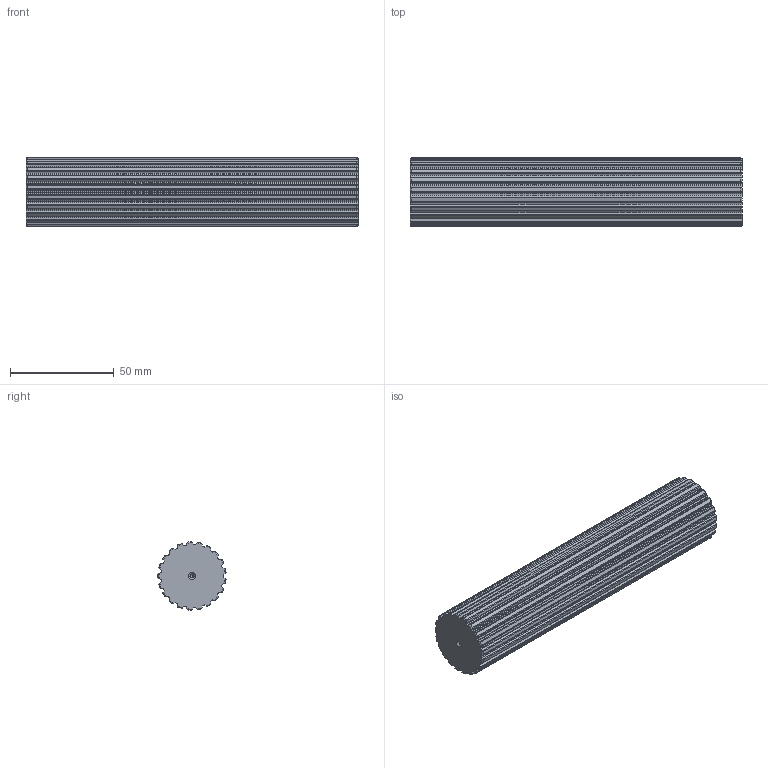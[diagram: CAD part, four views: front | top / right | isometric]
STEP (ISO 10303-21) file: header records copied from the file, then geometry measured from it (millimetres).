
FILE_DESCRIPTION(('STEP AP203'),'1');
FILE_NAME('bart_21.stp','2022-04-12T14:00:51',('TraceParts'),('TraceParts S.A.'),'Spatial InterOp 3D',' ',' ');
FILE_SCHEMA(('CONFIG_CONTROL_DESIGN'));
Length unit declared in the file: millimetre
Products named in the file (1): 1
Bounding box: 160 x 32.84 x 32.91 mm (x, y, z)
Volume: 127275.2 mm3; surface area: 22189.2 mm2
Topology: 1 solids, 1 shells, 226 faces, 664 edges, 438 vertices
Faces by surface type: cylinder 130, cone 52, plane 44
Entity records: 7922 total; most frequent: CARTESIAN_POINT 2081, ORIENTED_EDGE 1320, DIRECTION 1172, EDGE_CURVE 660, AXIS2_PLACEMENT_3D 453, VERTEX_POINT 438, LINE 266, VECTOR 266
